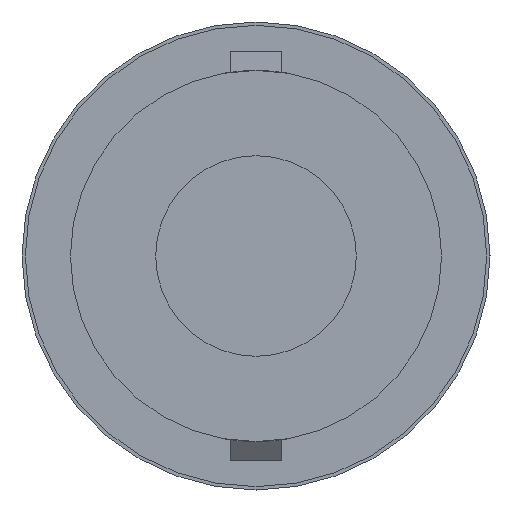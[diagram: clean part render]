
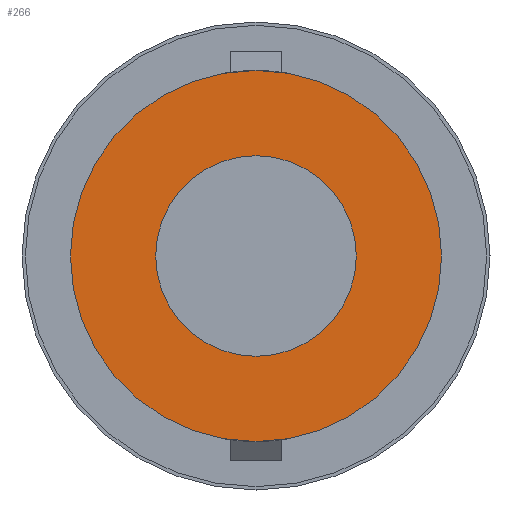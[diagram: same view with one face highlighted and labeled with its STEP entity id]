
A CAD part, front view. The second image highlights one B-rep face of the part: STEP entity #266.
In plain terms, the highlighted planar face has unit normal (0, -1, 0).
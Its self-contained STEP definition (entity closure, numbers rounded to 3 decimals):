
#48 = AXIS2_PLACEMENT_3D ( 'NONE', #641, #640, #642 ) ;
#66 = AXIS2_PLACEMENT_3D ( 'NONE', #674, #677, #671 ) ;
#113 = AXIS2_PLACEMENT_3D ( 'NONE', #949, #980, #983 ) ;
#156 = ORIENTED_EDGE ( 'NONE', *, *, #937, .T. ) ;
#172 = EDGE_LOOP ( 'NONE', ( #1126, #156 ) ) ;
#250 = VERTEX_POINT ( 'NONE', #1001 ) ;
#266 = ADVANCED_FACE ( 'NONE', ( #622, #776 ), #997, .T. ) ;
#289 = CARTESIAN_POINT ( 'NONE',  ( 0., -28.3, -6. ) ) ;
#312 = CARTESIAN_POINT ( 'NONE',  ( 0., -28.3, 6. ) ) ;
#325 = EDGE_LOOP ( 'NONE', ( #566, #466 ) ) ;
#342 = CIRCLE ( 'NONE', #1134, 6. ) ;
#359 = VERTEX_POINT ( 'NONE', #912 ) ;
#391 = DIRECTION ( 'NONE',  ( 0., 0., -1. ) ) ;
#392 = CARTESIAN_POINT ( 'NONE',  ( 0., -28.3, 0. ) ) ;
#402 = DIRECTION ( 'NONE',  ( 0., -1., 0. ) ) ;
#417 = DIRECTION ( 'NONE',  ( 0., -1., 0. ) ) ;
#419 = CARTESIAN_POINT ( 'NONE',  ( 0., -28.3, 0. ) ) ;
#466 = ORIENTED_EDGE ( 'NONE', *, *, #924, .F. ) ;
#566 = ORIENTED_EDGE ( 'NONE', *, *, #761, .F. ) ;
#567 = CIRCLE ( 'NONE', #48, 6. ) ;
#622 = FACE_BOUND ( 'NONE', #325, .T. ) ;
#640 = DIRECTION ( 'NONE',  ( 0., -1., 0. ) ) ;
#641 = CARTESIAN_POINT ( 'NONE',  ( 0., -28.3, 0. ) ) ;
#642 = DIRECTION ( 'NONE',  ( 0., 0., -1. ) ) ;
#671 = DIRECTION ( 'NONE',  ( 0., 0., -1. ) ) ;
#674 = CARTESIAN_POINT ( 'NONE',  ( 0., -28.3, 0. ) ) ;
#677 = DIRECTION ( 'NONE',  ( 0., -1., 0. ) ) ;
#737 = EDGE_CURVE ( 'NONE', #359, #250, #943, .T. ) ;
#761 = EDGE_CURVE ( 'NONE', #1033, #1014, #567, .T. ) ;
#776 = FACE_OUTER_BOUND ( 'NONE', #172, .T. ) ;
#897 = CIRCLE ( 'NONE', #1130, 11.1 ) ;
#912 = CARTESIAN_POINT ( 'NONE',  ( 0., -28.3, 11.1 ) ) ;
#924 = EDGE_CURVE ( 'NONE', #1014, #1033, #342, .T. ) ;
#937 = EDGE_CURVE ( 'NONE', #250, #359, #897, .T. ) ;
#943 = CIRCLE ( 'NONE', #66, 11.1 ) ;
#949 = CARTESIAN_POINT ( 'NONE',  ( 0., -28.3, 0. ) ) ;
#977 = DIRECTION ( 'NONE',  ( 0., 0., -1. ) ) ;
#980 = DIRECTION ( 'NONE',  ( 0., -1., 0. ) ) ;
#983 = DIRECTION ( 'NONE',  ( 0., 0., -1. ) ) ;
#997 = PLANE ( 'NONE',  #113 ) ;
#1001 = CARTESIAN_POINT ( 'NONE',  ( 0., -28.3, -11.1 ) ) ;
#1014 = VERTEX_POINT ( 'NONE', #312 ) ;
#1033 = VERTEX_POINT ( 'NONE', #289 ) ;
#1126 = ORIENTED_EDGE ( 'NONE', *, *, #737, .T. ) ;
#1130 = AXIS2_PLACEMENT_3D ( 'NONE', #392, #402, #977 ) ;
#1134 = AXIS2_PLACEMENT_3D ( 'NONE', #419, #417, #391 ) ;
